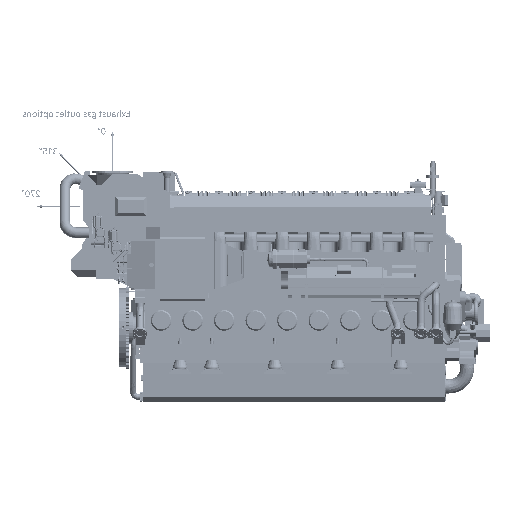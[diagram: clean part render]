
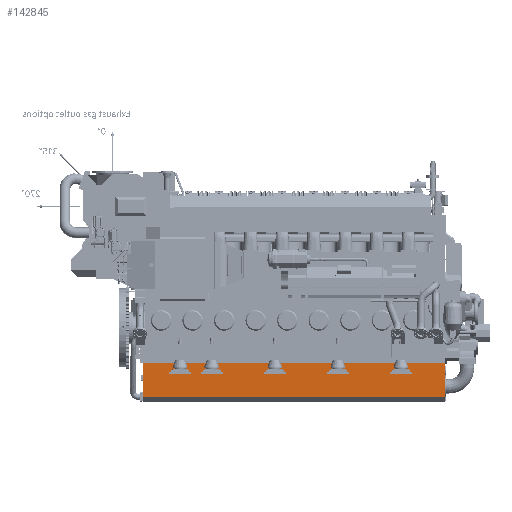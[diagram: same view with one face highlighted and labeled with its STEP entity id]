
A CAD part, front view. The second image highlights one B-rep face of the part: STEP entity #142845.
In plain terms, the highlighted planar face has unit normal (0, -0.999, -0.052).
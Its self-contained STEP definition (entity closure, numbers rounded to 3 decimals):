
#62852=FACE_OUTER_BOUND('',#178527,.T.);
#74302=PLANE('',#395099);
#97536=LINE('',#753355,#123138);
#97550=LINE('',#753406,#123152);
#97560=LINE('',#753433,#123162);
#97561=LINE('',#753435,#123163);
#123138=VECTOR('',#472786,1.);
#123152=VECTOR('',#472824,1.);
#123162=VECTOR('',#472848,1.);
#123163=VECTOR('',#472851,1.);
#142845=ADVANCED_FACE('',(#62852),#74302,.F.);
#178527=EDGE_LOOP('',(#260601,#260602,#260603,#260604));
#260601=ORIENTED_EDGE('',*,*,#349707,.T.);
#260602=ORIENTED_EDGE('',*,*,#349747,.F.);
#260603=ORIENTED_EDGE('',*,*,#349732,.F.);
#260604=ORIENTED_EDGE('',*,*,#349746,.T.);
#304640=VERTEX_POINT('',#753354);
#304641=VERTEX_POINT('',#753356);
#304665=VERTEX_POINT('',#753405);
#304666=VERTEX_POINT('',#753407);
#349707=EDGE_CURVE('',#304641,#304640,#97536,.T.);
#349732=EDGE_CURVE('',#304665,#304666,#97550,.T.);
#349746=EDGE_CURVE('',#304665,#304641,#97560,.T.);
#349747=EDGE_CURVE('',#304666,#304640,#97561,.T.);
#395099=AXIS2_PLACEMENT_3D('',#753436,#472852,#472853);
#472786=DIRECTION('',(0.,-0.052,0.999));
#472824=DIRECTION('',(0.,-0.052,0.999));
#472848=DIRECTION('',(1.,0.,0.));
#472851=DIRECTION('',(1.,0.,0.));
#472852=DIRECTION('',(0.,0.999,0.052));
#472853=DIRECTION('',(0.,-0.052,0.999));
#753354=CARTESIAN_POINT('',(0.,-440.25,-545.));
#753355=CARTESIAN_POINT('',(0.,-412.339,-1079.568));
#753356=CARTESIAN_POINT('',(0.,-412.339,-1079.568));
#753405=CARTESIAN_POINT('',(-4690.,-412.339,-1079.568));
#753406=CARTESIAN_POINT('',(-4690.,-412.339,-1079.568));
#753407=CARTESIAN_POINT('',(-4690.,-440.25,-545.));
#753433=CARTESIAN_POINT('',(-4690.,-412.339,-1079.568));
#753435=CARTESIAN_POINT('',(-4690.,-440.25,-545.));
#753436=CARTESIAN_POINT('',(-4690.,-412.339,-1079.568));
